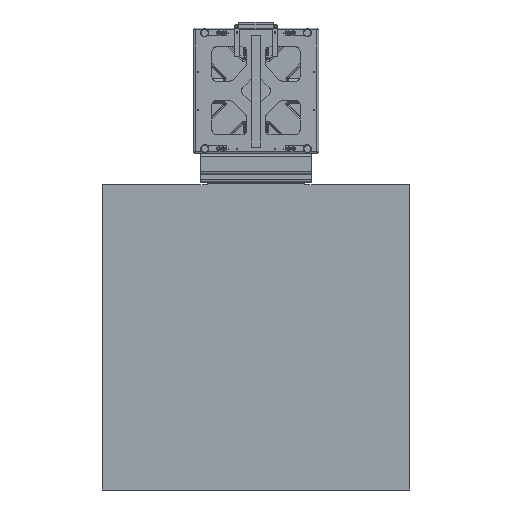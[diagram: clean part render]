
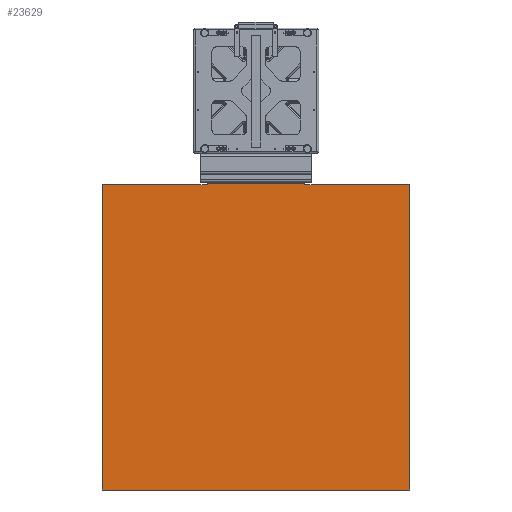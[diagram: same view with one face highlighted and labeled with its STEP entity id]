
A CAD part, front view. The second image highlights one B-rep face of the part: STEP entity #23629.
In plain terms, the highlighted planar face has unit normal (0, -1, 0).
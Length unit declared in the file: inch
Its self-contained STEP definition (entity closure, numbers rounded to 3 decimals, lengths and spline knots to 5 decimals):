
#855 = LINE ( 'NONE', #86919, #41517 ) ;
#888 = DIRECTION ( 'NONE',  ( 0., 0., -1. ) ) ;
#1116 = VECTOR ( 'NONE', #54441, 39.37008 ) ;
#2576 = CARTESIAN_POINT ( 'NONE',  ( -33., -3.085, -20.1205 ) ) ;
#2722 = EDGE_CURVE ( 'NONE', #51286, #101439, #49165, .T. ) ;
#6049 = EDGE_CURVE ( 'NONE', #6696, #38104, #855, .T. ) ;
#6696 = VERTEX_POINT ( 'NONE', #87800 ) ;
#7984 = VECTOR ( 'NONE', #18027, 39.37008 ) ;
#9674 = LINE ( 'NONE', #56565, #88350 ) ;
#9941 = EDGE_CURVE ( 'NONE', #17831, #29870, #45475, .T. ) ;
#9981 = DIRECTION ( 'NONE',  ( -1., 0., 0. ) ) ;
#11795 = ORIENTED_EDGE ( 'NONE', *, *, #95100, .F. ) ;
#15811 = VECTOR ( 'NONE', #90818, 39.37008 ) ;
#17649 = CARTESIAN_POINT ( 'NONE',  ( -10.5, -3.085, -19.78983 ) ) ;
#17831 = VERTEX_POINT ( 'NONE', #94037 ) ;
#18027 = DIRECTION ( 'NONE',  ( 1., 0., 0. ) ) ;
#18444 = CARTESIAN_POINT ( 'NONE',  ( 33., -3.085, -85.6205 ) ) ;
#18549 = AXIS2_PLACEMENT_3D ( 'NONE', #82098, #34700, #888 ) ;
#20240 = ORIENTED_EDGE ( 'NONE', *, *, #22931, .F. ) ;
#20979 = CARTESIAN_POINT ( 'NONE',  ( -33., -3.085, -20.1205 ) ) ;
#21257 = EDGE_CURVE ( 'NONE', #60270, #17831, #56189, .T. ) ;
#21787 = VECTOR ( 'NONE', #96401, 39.37008 ) ;
#22931 = EDGE_CURVE ( 'NONE', #29870, #6696, #40308, .T. ) ;
#23629 = ADVANCED_FACE ( 'NONE', ( #92111 ), #39056, .T. ) ;
#25074 = ORIENTED_EDGE ( 'NONE', *, *, #55586, .F. ) ;
#29870 = VERTEX_POINT ( 'NONE', #17649 ) ;
#34700 = DIRECTION ( 'NONE',  ( 0., -1., 0. ) ) ;
#35513 = VERTEX_POINT ( 'NONE', #72669 ) ;
#38104 = VERTEX_POINT ( 'NONE', #46245 ) ;
#38168 = LINE ( 'NONE', #69627, #101569 ) ;
#38684 = DIRECTION ( 'NONE',  ( 0., 0., -1. ) ) ;
#38784 = EDGE_LOOP ( 'NONE', ( #25074, #77420, #40641, #20240, #69042, #60554, #11795, #65007 ) ) ;
#39056 = PLANE ( 'NONE',  #18549 ) ;
#40308 = LINE ( 'NONE', #71755, #21787 ) ;
#40641 = ORIENTED_EDGE ( 'NONE', *, *, #6049, .F. ) ;
#41517 = VECTOR ( 'NONE', #47780, 39.37008 ) ;
#45475 = LINE ( 'NONE', #91851, #15811 ) ;
#46245 = CARTESIAN_POINT ( 'NONE',  ( 10.5, -3.085, -20.1205 ) ) ;
#47780 = DIRECTION ( 'NONE',  ( 0., 0., -1. ) ) ;
#49165 = LINE ( 'NONE', #57389, #69743 ) ;
#51286 = VERTEX_POINT ( 'NONE', #18444 ) ;
#54441 = DIRECTION ( 'NONE',  ( 0., 0., 1. ) ) ;
#55586 = EDGE_CURVE ( 'NONE', #35513, #51286, #38168, .T. ) ;
#56189 = LINE ( 'NONE', #2576, #7984 ) ;
#56565 = CARTESIAN_POINT ( 'NONE',  ( 10.5, -3.085, -20.1205 ) ) ;
#57389 = CARTESIAN_POINT ( 'NONE',  ( -33., -3.085, -85.6205 ) ) ;
#60270 = VERTEX_POINT ( 'NONE', #61608 ) ;
#60554 = ORIENTED_EDGE ( 'NONE', *, *, #21257, .F. ) ;
#61608 = CARTESIAN_POINT ( 'NONE',  ( -33., -3.085, -20.1205 ) ) ;
#61614 = EDGE_CURVE ( 'NONE', #38104, #35513, #9674, .T. ) ;
#65007 = ORIENTED_EDGE ( 'NONE', *, *, #2722, .F. ) ;
#69042 = ORIENTED_EDGE ( 'NONE', *, *, #9941, .F. ) ;
#69627 = CARTESIAN_POINT ( 'NONE',  ( 33., -3.085, -20.1205 ) ) ;
#69743 = VECTOR ( 'NONE', #9981, 39.37008 ) ;
#71755 = CARTESIAN_POINT ( 'NONE',  ( -10.5, -3.085, -19.78983 ) ) ;
#72564 = DIRECTION ( 'NONE',  ( 1., 0., 0. ) ) ;
#72669 = CARTESIAN_POINT ( 'NONE',  ( 33., -3.085, -20.1205 ) ) ;
#77420 = ORIENTED_EDGE ( 'NONE', *, *, #61614, .F. ) ;
#82098 = CARTESIAN_POINT ( 'NONE',  ( 0., -3.085, -15.7455 ) ) ;
#86919 = CARTESIAN_POINT ( 'NONE',  ( 10.5, -3.085, -19.78983 ) ) ;
#87800 = CARTESIAN_POINT ( 'NONE',  ( 10.5, -3.085, -19.78983 ) ) ;
#88350 = VECTOR ( 'NONE', #72564, 39.37008 ) ;
#90522 = LINE ( 'NONE', #20979, #1116 ) ;
#90818 = DIRECTION ( 'NONE',  ( 0., 0., 1. ) ) ;
#91101 = CARTESIAN_POINT ( 'NONE',  ( -33., -3.085, -85.6205 ) ) ;
#91851 = CARTESIAN_POINT ( 'NONE',  ( -10.5, -3.085, -20.1205 ) ) ;
#92111 = FACE_OUTER_BOUND ( 'NONE', #38784, .T. ) ;
#94037 = CARTESIAN_POINT ( 'NONE',  ( -10.5, -3.085, -20.1205 ) ) ;
#95100 = EDGE_CURVE ( 'NONE', #101439, #60270, #90522, .T. ) ;
#96401 = DIRECTION ( 'NONE',  ( 1., 0., 0. ) ) ;
#101439 = VERTEX_POINT ( 'NONE', #91101 ) ;
#101569 = VECTOR ( 'NONE', #38684, 39.37008 ) ;
